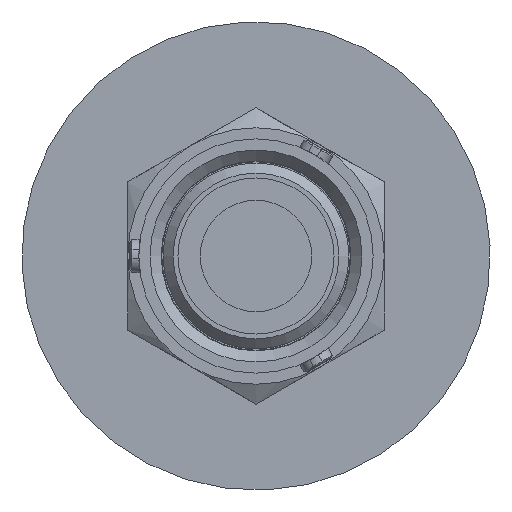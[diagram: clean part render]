
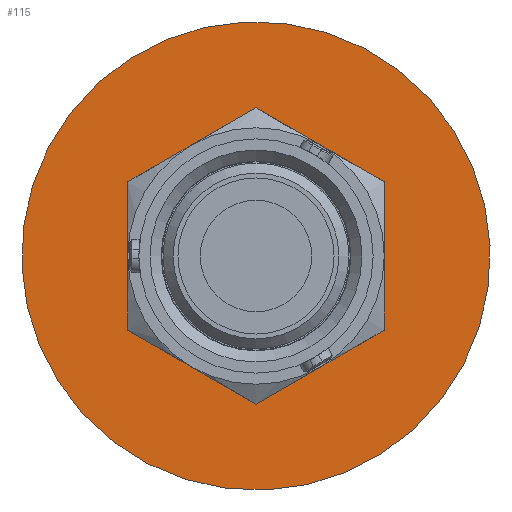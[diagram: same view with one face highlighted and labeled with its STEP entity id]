
A CAD part, front view. The second image highlights one B-rep face of the part: STEP entity #115.
In plain terms, the highlighted planar face has unit normal (0, -1, 0).
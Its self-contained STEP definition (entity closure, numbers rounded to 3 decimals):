
#115 = ADVANCED_FACE ( 'NONE', ( #1494, #1688 ), #2089, .F. ) ;
#237 = DIRECTION ( 'NONE',  ( 0., 1., 0. ) ) ;
#295 = CIRCLE ( 'NONE', #377, 21. ) ;
#330 = CARTESIAN_POINT ( 'NONE',  ( 0., 160., 11.499 ) ) ;
#377 = AXIS2_PLACEMENT_3D ( 'NONE', #672, #237, #1064 ) ;
#568 = CARTESIAN_POINT ( 'NONE',  ( 15.55, 160., 0. ) ) ;
#672 = CARTESIAN_POINT ( 'NONE',  ( 0., 160., 0. ) ) ;
#714 = CARTESIAN_POINT ( 'NONE',  ( -20.98, 160., -0.916 ) ) ;
#715 = ORIENTED_EDGE ( 'NONE', *, *, #1561, .T. ) ;
#749 = EDGE_LOOP ( 'NONE', ( #2016 ) ) ;
#775 = AXIS2_PLACEMENT_3D ( 'NONE', #2336, #1600, #1978 ) ;
#1064 = DIRECTION ( 'NONE',  ( -0.999, 0., -0.044 ) ) ;
#1083 = EDGE_LOOP ( 'NONE', ( #715 ) ) ;
#1346 = DIRECTION ( 'NONE',  ( 0., 1., 0. ) ) ;
#1494 = FACE_BOUND ( 'NONE', #1083, .T. ) ;
#1561 = EDGE_CURVE ( 'NONE', #2076, #2076, #1704, .T. ) ;
#1600 = DIRECTION ( 'NONE',  ( 0., 1., 0. ) ) ;
#1679 = AXIS2_PLACEMENT_3D ( 'NONE', #568, #1346, #1922 ) ;
#1688 = FACE_OUTER_BOUND ( 'NONE', #749, .T. ) ;
#1704 = CIRCLE ( 'NONE', #775, 11.499 ) ;
#1922 = DIRECTION ( 'NONE',  ( -1., 0., 0. ) ) ;
#1978 = DIRECTION ( 'NONE',  ( 0., 0., 1. ) ) ;
#2016 = ORIENTED_EDGE ( 'NONE', *, *, #2422, .F. ) ;
#2076 = VERTEX_POINT ( 'NONE', #330 ) ;
#2089 = PLANE ( 'NONE',  #1679 ) ;
#2336 = CARTESIAN_POINT ( 'NONE',  ( 0., 160., 0. ) ) ;
#2406 = VERTEX_POINT ( 'NONE', #714 ) ;
#2422 = EDGE_CURVE ( 'NONE', #2406, #2406, #295, .T. ) ;
